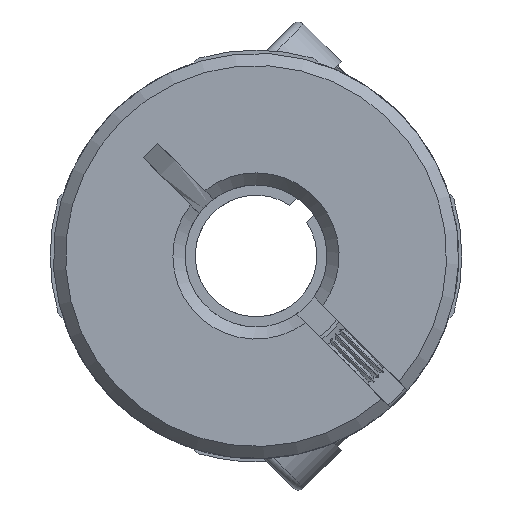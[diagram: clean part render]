
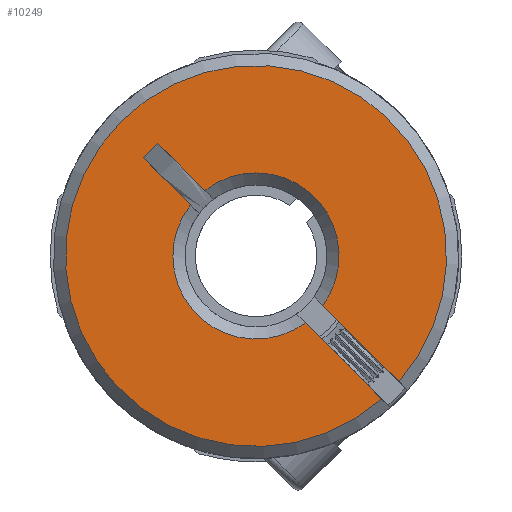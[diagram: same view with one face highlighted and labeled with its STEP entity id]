
A CAD part, front view. The second image highlights one B-rep face of the part: STEP entity #10249.
In plain terms, the highlighted planar face has unit normal (0, -1, 0).
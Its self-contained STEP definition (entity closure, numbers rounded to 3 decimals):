
#46 = CARTESIAN_POINT ( 'NONE',  ( 0., -12.6, 0. ) ) ;
#64 = CARTESIAN_POINT ( 'NONE',  ( 0., -12.6, 0. ) ) ;
#87 = DIRECTION ( 'NONE',  ( 0.707, 0., -0.707 ) ) ;
#229 = CIRCLE ( 'NONE', #968, 9.4 ) ;
#290 = EDGE_CURVE ( 'NONE', #12487, #5608, #229, .T. ) ;
#968 = AXIS2_PLACEMENT_3D ( 'NONE', #1959, #3874, #12887 ) ;
#1156 = DIRECTION ( 'NONE',  ( 0., 1., 0. ) ) ;
#1672 = VECTOR ( 'NONE', #8375, 1000. ) ;
#1690 = CARTESIAN_POINT ( 'NONE',  ( 7.058, -12.6, -6.209 ) ) ;
#1959 = CARTESIAN_POINT ( 'NONE',  ( 0., -12.6, 0. ) ) ;
#2031 = CARTESIAN_POINT ( 'NONE',  ( 4.95, -12.6, -5.657 ) ) ;
#2097 = VECTOR ( 'NONE', #9202, 1000. ) ;
#2394 = EDGE_CURVE ( 'NONE', #3231, #12934, #12285, .T. ) ;
#2413 = ORIENTED_EDGE ( 'NONE', *, *, #3166, .F. ) ;
#2638 = CARTESIAN_POINT ( 'NONE',  ( -2.524, -12.6, 3.231 ) ) ;
#2678 = CARTESIAN_POINT ( 'NONE',  ( 2.014, -12.6, -2.863 ) ) ;
#2739 = PLANE ( 'NONE',  #8900 ) ;
#2862 = ORIENTED_EDGE ( 'NONE', *, *, #2944, .F. ) ;
#2944 = EDGE_CURVE ( 'NONE', #12487, #6746, #8531, .T. ) ;
#3166 = EDGE_CURVE ( 'NONE', #11242, #5608, #11769, .T. ) ;
#3231 = VERTEX_POINT ( 'NONE', #4007 ) ;
#3698 = DIRECTION ( 'NONE',  ( 0., 1., 0. ) ) ;
#3874 = DIRECTION ( 'NONE',  ( 0., -1., 0. ) ) ;
#4007 = CARTESIAN_POINT ( 'NONE',  ( -4.842, -12.6, 5.549 ) ) ;
#4069 = DIRECTION ( 'NONE',  ( 0.707, 0., -0.707 ) ) ;
#4219 = CARTESIAN_POINT ( 'NONE',  ( 5.657, -12.6, -4.95 ) ) ;
#4377 = ORIENTED_EDGE ( 'NONE', *, *, #13076, .F. ) ;
#4486 = CARTESIAN_POINT ( 'NONE',  ( -5.549, -12.6, 4.842 ) ) ;
#4812 = EDGE_CURVE ( 'NONE', #3231, #6280, #8001, .T. ) ;
#4850 = AXIS2_PLACEMENT_3D ( 'NONE', #46, #11003, #87 ) ;
#5608 = VERTEX_POINT ( 'NONE', #10013 ) ;
#5626 = ORIENTED_EDGE ( 'NONE', *, *, #4812, .T. ) ;
#5749 = CARTESIAN_POINT ( 'NONE',  ( 342.528, -12.6, 364.579 ) ) ;
#6278 = DIRECTION ( 'NONE',  ( -0.707, 0., 0.707 ) ) ;
#6280 = VERTEX_POINT ( 'NONE', #2638 ) ;
#6746 = VERTEX_POINT ( 'NONE', #12064 ) ;
#6830 = CARTESIAN_POINT ( 'NONE',  ( -3.231, -12.6, 2.524 ) ) ;
#7224 = EDGE_CURVE ( 'NONE', #11242, #12507, #8887, .T. ) ;
#7483 = ORIENTED_EDGE ( 'NONE', *, *, #290, .T. ) ;
#7686 = CIRCLE ( 'NONE', #11178, 4.1 ) ;
#7954 = DIRECTION ( 'NONE',  ( -0.707, 0., -0.707 ) ) ;
#8001 = LINE ( 'NONE', #4219, #1672 ) ;
#8040 = ORIENTED_EDGE ( 'NONE', *, *, #7224, .T. ) ;
#8209 = EDGE_LOOP ( 'NONE', ( #5626, #12177, #2862, #7483, #2413, #8040, #4377, #8943 ) ) ;
#8375 = DIRECTION ( 'NONE',  ( 0.707, 0., -0.707 ) ) ;
#8531 = LINE ( 'NONE', #11326, #8836 ) ;
#8836 = VECTOR ( 'NONE', #6278, 1000. ) ;
#8887 = CIRCLE ( 'NONE', #4850, 4.1 ) ;
#8900 = AXIS2_PLACEMENT_3D ( 'NONE', #5749, #3698, #11847 ) ;
#8943 = ORIENTED_EDGE ( 'NONE', *, *, #2394, .F. ) ;
#9202 = DIRECTION ( 'NONE',  ( 0.707, 0., -0.707 ) ) ;
#9919 = DIRECTION ( 'NONE',  ( 0.707, 0., -0.707 ) ) ;
#10013 = CARTESIAN_POINT ( 'NONE',  ( 6.209, -12.6, -7.058 ) ) ;
#10242 = FACE_OUTER_BOUND ( 'NONE', #8209, .T. ) ;
#10249 = ADVANCED_FACE ( 'NONE', ( #10242 ), #2739, .F. ) ;
#10562 = VECTOR ( 'NONE', #9919, 1000. ) ;
#11003 = DIRECTION ( 'NONE',  ( 0., 1., 0. ) ) ;
#11178 = AXIS2_PLACEMENT_3D ( 'NONE', #64, #1156, #4069 ) ;
#11242 = VERTEX_POINT ( 'NONE', #11698 ) ;
#11326 = CARTESIAN_POINT ( 'NONE',  ( 2.863, -12.6, -2.014 ) ) ;
#11647 = EDGE_CURVE ( 'NONE', #6280, #6746, #7686, .T. ) ;
#11649 = VECTOR ( 'NONE', #7954, 1000. ) ;
#11698 = CARTESIAN_POINT ( 'NONE',  ( 2.444, -12.6, -3.292 ) ) ;
#11769 = LINE ( 'NONE', #2678, #10562 ) ;
#11847 = DIRECTION ( 'NONE',  ( 0.707, 0., -0.707 ) ) ;
#12064 = CARTESIAN_POINT ( 'NONE',  ( 3.292, -12.6, -2.444 ) ) ;
#12177 = ORIENTED_EDGE ( 'NONE', *, *, #11647, .T. ) ;
#12179 = LINE ( 'NONE', #2031, #2097 ) ;
#12285 = LINE ( 'NONE', #13050, #11649 ) ;
#12487 = VERTEX_POINT ( 'NONE', #1690 ) ;
#12507 = VERTEX_POINT ( 'NONE', #6830 ) ;
#12887 = DIRECTION ( 'NONE',  ( 0.707, 0., -0.707 ) ) ;
#12934 = VERTEX_POINT ( 'NONE', #4486 ) ;
#13050 = CARTESIAN_POINT ( 'NONE',  ( -4.842, -12.6, 5.549 ) ) ;
#13076 = EDGE_CURVE ( 'NONE', #12934, #12507, #12179, .T. ) ;
